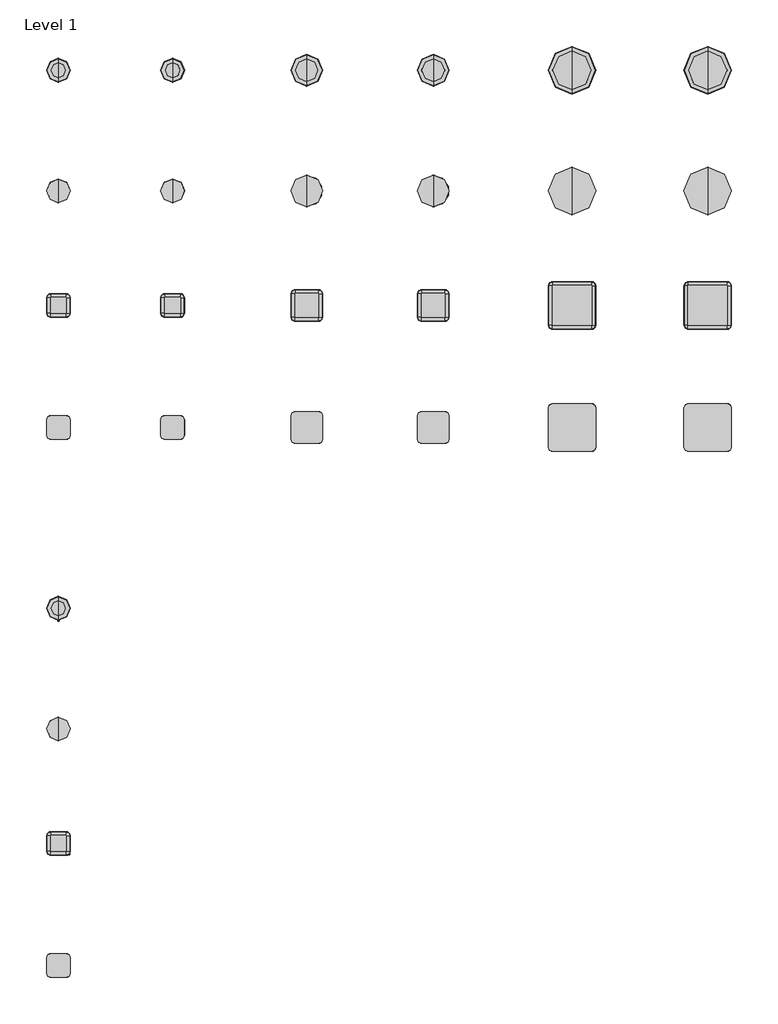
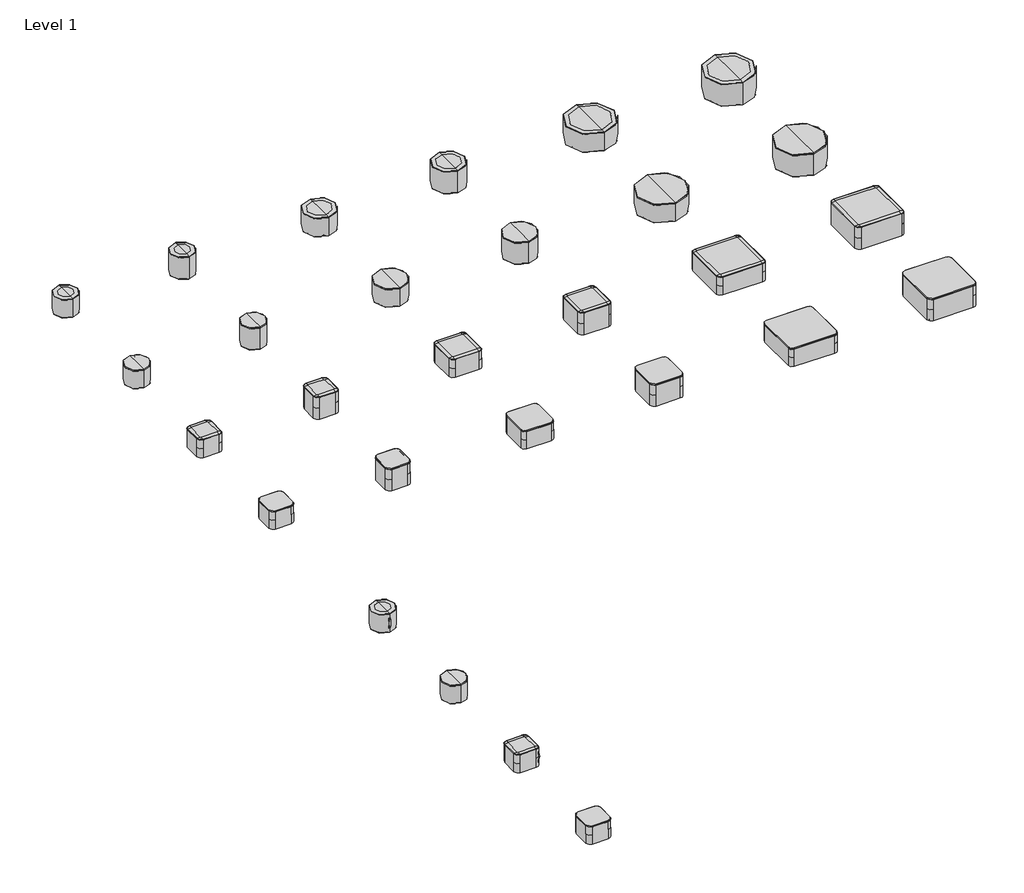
# One storey, incomplete: 28 furniture elements.
"""IFC4 building model written with IfcOpenShell, lengths in millimetres."""

from ifc_helpers import new_model, si_unit, origin, place, context, project, spatial, transform, mapped, element, save
from components import furniture_a3c5e237, furniture_b2d44463, furniture_fd76e9cd, furniture_891c9925, furniture_98ce93dc, furniture_21317942, furniture_b9e1d5f8, furniture_52c28c99, furniture_63529f93, furniture_b14e69c4, furniture_d7e150b2, furniture_db502461, furniture_a1b813e6, furniture_d617ee3a, furniture_a9f47ea0, furniture_fd8d8a9c, furniture_1430fbfa, furniture_90adf163, furniture_ce7c7004, furniture_ea124245, furniture_f3731884, furniture_ba106c97, furniture_132e7c60, furniture_806fa003, furniture_27540417, furniture_f773997b

model = new_model("IFC4")

# Units and contexts
model_context = context("Model", 3, world=origin())
ifc_project = project(units=[si_unit("LENGTHUNIT", "METRE", prefix="MILLI")], contexts=[model_context])

# Site, building, storey
site = spatial("IfcSite", under=ifc_project)
building = spatial("IfcBuilding", under=site)
storey = spatial("IfcBuildingStorey", under=building, Name="Level 1", Elevation=-570.2224282)

# Furniture
placement = place(None, origin())
furniture_shape = furniture_a3c5e237(model_context)
element("IfcFurniture", 1, ObjectType="Indiana-Otty-Ottoman_Round : 840-1815RO", at=placement, inside=storey, context=model_context, shape_type="MappedRepresentation", body=[
    mapped(furniture_shape, transform((-14711.1316439, 13806.7948993, -570.2224282), x_axis=(1.0, 0.0, 0.0), y_axis=(0.0, 1.0, 0.0), z_axis=(0.0, 0.0, 1.0))),
])
furniture_2_shape = furniture_b2d44463(model_context)
element("IfcFurniture", 2, ObjectType="Indiana-Otty-Ottoman_Round : 840-1818RO", at=placement, inside=storey, context=model_context, shape_type="MappedRepresentation", body=[
    mapped(furniture_2_shape, transform((-12510.6986173, 13806.7948993, -570.2224282), x_axis=(1.0, 0.0, 0.0), y_axis=(0.0, 1.0, 0.0), z_axis=(0.0, 0.0, 1.0))),
])
furniture_3_shape = furniture_fd76e9cd(model_context)
element("IfcFurniture", 3, ObjectType="Indiana-Otty-Ottoman_Round : 840-2415RO", at=placement, inside=storey, context=model_context, shape_type="MappedRepresentation", body=[
    mapped(furniture_3_shape, transform((-9924.9166069, 13806.7948993, -570.2224282), x_axis=(1.0, 0.0, 0.0), y_axis=(0.0, 1.0, 0.0), z_axis=(0.0, 0.0, 1.0))),
])
furniture_4_shape = furniture_891c9925(model_context)
element("IfcFurniture", 4, ObjectType="Indiana-Otty-Ottoman_Round : 840-2418RO", at=placement, inside=storey, context=model_context, shape_type="MappedRepresentation", body=[
    mapped(furniture_4_shape, transform((-7486.0540289, 13806.7948993, -570.2224282), x_axis=(1.0, 0.0, 0.0), y_axis=(0.0, 1.0, 0.0), z_axis=(0.0, 0.0, 1.0))),
])
furniture_5_shape = furniture_98ce93dc(model_context)
element("IfcFurniture", 5, ObjectType="Indiana-Otty-Ottoman_Round : 840-3615RO", at=placement, inside=storey, context=model_context, shape_type="MappedRepresentation", body=[
    mapped(furniture_5_shape, transform((-4812.1203591, 13806.7948993, -570.2224282), x_axis=(1.0, 0.0, 0.0), y_axis=(0.0, 1.0, 0.0), z_axis=(0.0, 0.0, 1.0))),
])
furniture_6_shape = furniture_21317942(model_context)
element("IfcFurniture", 6, ObjectType="Indiana-Otty-Ottoman_Round : 840-3618RO", at=placement, inside=storey, context=model_context, shape_type="MappedRepresentation", body=[
    mapped(furniture_6_shape, transform((-2196.9544622, 13806.7948993, -570.2224282), x_axis=(1.0, 0.0, 0.0), y_axis=(0.0, 1.0, 0.0), z_axis=(0.0, 0.0, 1.0))),
])
furniture_7_shape = furniture_b9e1d5f8(model_context)
element("IfcFurniture", 7, ObjectType="Indiana-Otty-Ottoman_Round_Table : 840-1815ROT", at=placement, inside=storey, context=model_context, shape_type="MappedRepresentation", body=[
    mapped(furniture_7_shape, transform((-14711.1316439, 11483.7148595, -570.2224282), x_axis=(1.0, 0.0, 0.0), y_axis=(0.0, 1.0, 0.0), z_axis=(0.0, 0.0, 1.0))),
])
element("IfcFurniture", 8, ObjectType="Indiana-Otty-Ottoman_Round_Table : 840-1815ROT", at=placement, inside=storey, context=model_context, shape_type="MappedRepresentation", body=[
    mapped(furniture_7_shape, transform((-14711.1316439, 1120.5148595, -570.2224282), x_axis=(1.0, 0.0, 0.0), y_axis=(0.0, 1.0, 0.0), z_axis=(0.0, 0.0, 1.0))),
])
furniture_8_shape = furniture_52c28c99(model_context)
element("IfcFurniture", 9, ObjectType="Indiana-Otty-Ottoman_Round_Table : 840-1818ROT", at=placement, inside=storey, context=model_context, shape_type="MappedRepresentation", body=[
    mapped(furniture_8_shape, transform((-12510.6986173, 11483.7148595, -570.2224282), x_axis=(1.0, 0.0, 0.0), y_axis=(0.0, 1.0, 0.0), z_axis=(0.0, 0.0, 1.0))),
])
furniture_9_shape = furniture_63529f93(model_context)
element("IfcFurniture", 10, ObjectType="Indiana-Otty-Ottoman_Round_Table : 840-2415ROT", at=placement, inside=storey, context=model_context, shape_type="MappedRepresentation", body=[
    mapped(furniture_9_shape, transform((-9924.9166069, 11483.7148595, -570.2224282), x_axis=(1.0, 0.0, 0.0), y_axis=(0.0, 1.0, 0.0), z_axis=(0.0, 0.0, 1.0))),
])
furniture_10_shape = furniture_b14e69c4(model_context)
element("IfcFurniture", 11, ObjectType="Indiana-Otty-Ottoman_Round_Table : 840-2418ROT", at=placement, inside=storey, context=model_context, shape_type="MappedRepresentation", body=[
    mapped(furniture_10_shape, transform((-7486.0540289, 11483.7148595, -570.2224282), x_axis=(1.0, 0.0, 0.0), y_axis=(0.0, 1.0, 0.0), z_axis=(0.0, 0.0, 1.0))),
])
furniture_11_shape = furniture_d7e150b2(model_context)
element("IfcFurniture", 12, ObjectType="Indiana-Otty-Ottoman_Round_Table : 840-3615ROT", at=placement, inside=storey, context=model_context, shape_type="MappedRepresentation", body=[
    mapped(furniture_11_shape, transform((-4812.1203591, 11483.7148595, -570.2224282), x_axis=(1.0, 0.0, 0.0), y_axis=(0.0, 1.0, 0.0), z_axis=(0.0, 0.0, 1.0))),
])
furniture_12_shape = furniture_db502461(model_context)
element("IfcFurniture", 13, ObjectType="Indiana-Otty-Ottoman_Round_Table : 840-3618ROT", at=placement, inside=storey, context=model_context, shape_type="MappedRepresentation", body=[
    mapped(furniture_12_shape, transform((-2196.9544622, 11483.7148595, -570.2224282), x_axis=(1.0, 0.0, 0.0), y_axis=(0.0, 1.0, 0.0), z_axis=(0.0, 0.0, 1.0))),
])
furniture_13_shape = furniture_a1b813e6(model_context)
element("IfcFurniture", 14, ObjectType="Indiana-Otty-Ottoman_Square_Table : 840-1815SOT", at=placement, inside=storey, context=model_context, shape_type="MappedRepresentation", body=[
    mapped(furniture_13_shape, transform((-14711.1316439, 6925.4145875, -570.2224282), x_axis=(1.0, 0.0, 0.0), y_axis=(0.0, 1.0, 0.0), z_axis=(0.0, 0.0, 1.0))),
])
element("IfcFurniture", 15, ObjectType="Indiana-Otty-Ottoman_Square_Table : 840-1815SOT", at=placement, inside=storey, context=model_context, shape_type="MappedRepresentation", body=[
    mapped(furniture_13_shape, transform((-14711.1316439, -3437.7854125, -570.2224282), x_axis=(1.0, 0.0, 0.0), y_axis=(0.0, 1.0, 0.0), z_axis=(0.0, 0.0, 1.0))),
])
furniture_14_shape = furniture_d617ee3a(model_context)
element("IfcFurniture", 16, ObjectType="Indiana-Otty-Ottoman_Square_Table : 840-1818SOT", at=placement, inside=storey, context=model_context, shape_type="MappedRepresentation", body=[
    mapped(furniture_14_shape, transform((-12510.6986173, 6925.4145875, -570.2224282), x_axis=(1.0, 0.0, 0.0), y_axis=(0.0, 1.0, 0.0), z_axis=(0.0, 0.0, 1.0))),
])
furniture_15_shape = furniture_a9f47ea0(model_context)
element("IfcFurniture", 17, ObjectType="Indiana-Otty-Ottoman_Square_Table : 840-2415SOT", at=placement, inside=storey, context=model_context, shape_type="MappedRepresentation", body=[
    mapped(furniture_15_shape, transform((-9924.9166069, 6925.4145875, -570.2224282), x_axis=(1.0, 0.0, 0.0), y_axis=(0.0, 1.0, 0.0), z_axis=(0.0, 0.0, 1.0))),
])
furniture_16_shape = furniture_fd8d8a9c(model_context)
element("IfcFurniture", 18, ObjectType="Indiana-Otty-Ottoman_Square_Table : 840-2418SOT", at=placement, inside=storey, context=model_context, shape_type="MappedRepresentation", body=[
    mapped(furniture_16_shape, transform((-7486.0540289, 6925.4145875, -570.2224282), x_axis=(1.0, 0.0, 0.0), y_axis=(0.0, 1.0, 0.0), z_axis=(0.0, 0.0, 1.0))),
])
furniture_17_shape = furniture_1430fbfa(model_context)
element("IfcFurniture", 19, ObjectType="Indiana-Otty-Ottoman_Square_Table : 840-3615SOT", at=placement, inside=storey, context=model_context, shape_type="MappedRepresentation", body=[
    mapped(furniture_17_shape, transform((-4812.1203591, 6925.4145875, -570.2224282), x_axis=(1.0, 0.0, 0.0), y_axis=(0.0, 1.0, 0.0), z_axis=(0.0, 0.0, 1.0))),
])
furniture_18_shape = furniture_90adf163(model_context)
element("IfcFurniture", 20, ObjectType="Indiana-Otty-Ottoman_Square_Table : 840-3618SOT", at=placement, inside=storey, context=model_context, shape_type="MappedRepresentation", body=[
    mapped(furniture_18_shape, transform((-2196.9544622, 6925.4145875, -570.2224282), x_axis=(1.0, 0.0, 0.0), y_axis=(0.0, 1.0, 0.0), z_axis=(0.0, 0.0, 1.0))),
])
furniture_19_shape = furniture_ce7c7004(model_context)
element("IfcFurniture", 21, ObjectType="Indiana-Otty-Ottoman_Square : 840-1815SO", at=placement, inside=storey, context=model_context, shape_type="MappedRepresentation", body=[
    mapped(furniture_19_shape, transform((-14711.1316439, 9275.5370153, -570.2224282), x_axis=(1.0, 0.0, 0.0), y_axis=(0.0, 1.0, 0.0), z_axis=(0.0, 0.0, 1.0))),
])
furniture_20_shape = furniture_ea124245(model_context)
element("IfcFurniture", 22, ObjectType="Indiana-Otty-Ottoman_Square : 840-1818SO", at=placement, inside=storey, context=model_context, shape_type="MappedRepresentation", body=[
    mapped(furniture_20_shape, transform((-12510.6986173, 9275.5370153, -570.2224282), x_axis=(1.0, 0.0, 0.0), y_axis=(0.0, 1.0, 0.0), z_axis=(0.0, 0.0, 1.0))),
])
furniture_21_shape = furniture_f3731884(model_context)
element("IfcFurniture", 23, ObjectType="Indiana-Otty-Ottoman_Square : 840-2415SO", at=placement, inside=storey, context=model_context, shape_type="MappedRepresentation", body=[
    mapped(furniture_21_shape, transform((-9924.9166069, 9275.5370153, -570.2224282), x_axis=(1.0, 0.0, 0.0), y_axis=(0.0, 1.0, 0.0), z_axis=(0.0, 0.0, 1.0))),
])
furniture_22_shape = furniture_ba106c97(model_context)
element("IfcFurniture", 24, ObjectType="Indiana-Otty-Ottoman_Square : 840-2418SO", at=placement, inside=storey, context=model_context, shape_type="MappedRepresentation", body=[
    mapped(furniture_22_shape, transform((-7486.0540289, 9275.5370153, -570.2224282), x_axis=(1.0, 0.0, 0.0), y_axis=(0.0, 1.0, 0.0), z_axis=(0.0, 0.0, 1.0))),
])
furniture_23_shape = furniture_132e7c60(model_context)
element("IfcFurniture", 25, ObjectType="Indiana-Otty-Ottoman_Square : 840-3615SO", at=placement, inside=storey, context=model_context, shape_type="MappedRepresentation", body=[
    mapped(furniture_23_shape, transform((-4812.1203591, 9275.5370153, -570.2224282), x_axis=(1.0, 0.0, 0.0), y_axis=(0.0, 1.0, 0.0), z_axis=(0.0, 0.0, 1.0))),
])
furniture_24_shape = furniture_806fa003(model_context)
element("IfcFurniture", 26, ObjectType="Indiana-Otty-Ottoman_Square : 840-3618SO", at=placement, inside=storey, context=model_context, shape_type="MappedRepresentation", body=[
    mapped(furniture_24_shape, transform((-2196.9544622, 9275.5370153, -570.2224282), x_axis=(1.0, 0.0, 0.0), y_axis=(0.0, 1.0, 0.0), z_axis=(0.0, 0.0, 1.0))),
])
furniture_25_shape = furniture_27540417(model_context)
element("IfcFurniture", 27, ObjectType="Indiana-Otty-Ottoman_Round : 840-1815RO", at=placement, inside=storey, context=model_context, shape_type="MappedRepresentation", body=[
    mapped(furniture_25_shape, transform((-14711.1316439, 3443.5948993, -570.2224282), x_axis=(1.0, 0.0, 0.0), y_axis=(0.0, 1.0, 0.0), z_axis=(0.0, 0.0, 1.0))),
])
furniture_26_shape = furniture_f773997b(model_context)
element("IfcFurniture", 28, ObjectType="Indiana-Otty-Ottoman_Square : 840-1815SO", at=placement, inside=storey, context=model_context, shape_type="MappedRepresentation", body=[
    mapped(furniture_26_shape, transform((-14711.1316439, -1087.6629847, -570.2224282), x_axis=(1.0, 0.0, 0.0), y_axis=(0.0, 1.0, 0.0), z_axis=(0.0, 0.0, 1.0))),
])

save(model, "model.ifc")
